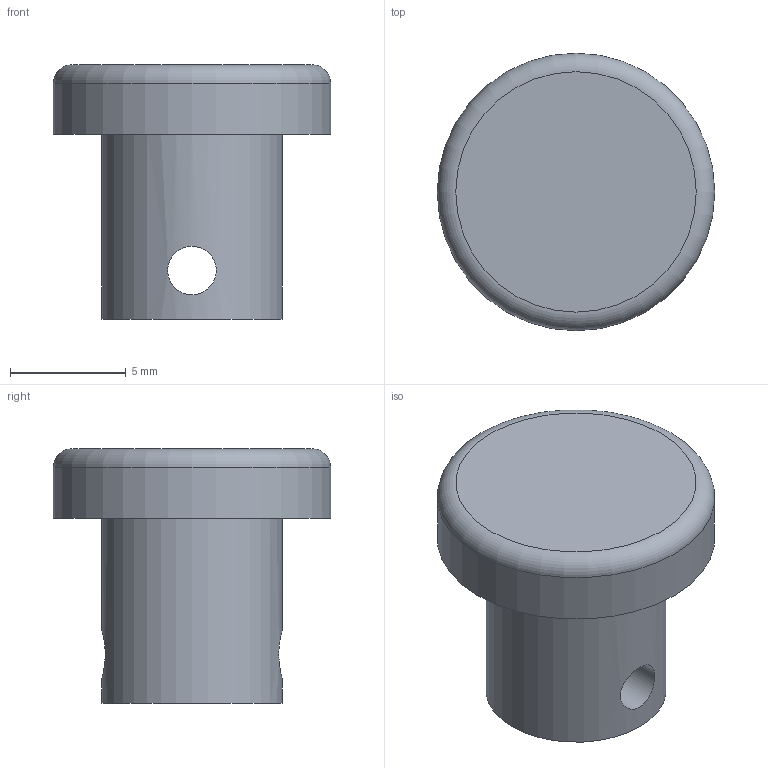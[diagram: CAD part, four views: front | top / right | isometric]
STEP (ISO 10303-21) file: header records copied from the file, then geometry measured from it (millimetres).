
FILE_DESCRIPTION(('Open CASCADE Model'),'2;1');
FILE_NAME('Open CASCADE Shape Model','2026-10-20T15:49:45',('Author'),( 'Open CASCADE'),'Open CASCADE STEP processor 7.8','Open CASCADE 7.8' ,'Unknown');
FILE_SCHEMA(('AUTOMOTIVE_DESIGN { 1 0 10303 214 1 1 1 1 }'));
Length unit declared in the file: millimetre
Products named in the file (1): Open CASCADE STEP translator 7.8 9
Bounding box: 12 x 12 x 11 mm (x, y, z)
Volume: 689.8 mm3; surface area: 565.6 mm2
Topology: 1 solids, 1 shells, 7 faces, 11 edges, 7 vertices
Faces by surface type: cylinder 3, plane 3, torus 1
Full cylindrical faces by diameter (mm): 2.1 x1, 7.8 x1, 12 x1
Entity records: 609 total; most frequent: CARTESIAN_POINT 356, DIRECTION 46, ORIENTED_EDGE 22, PCURVE 22, DEFINITIONAL_REPRESENTATION 22, LINE 15, VECTOR 15, AXIS2_PLACEMENT_3D 14
